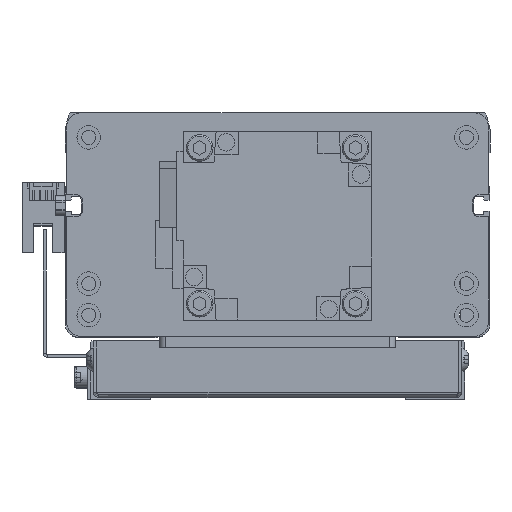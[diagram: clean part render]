
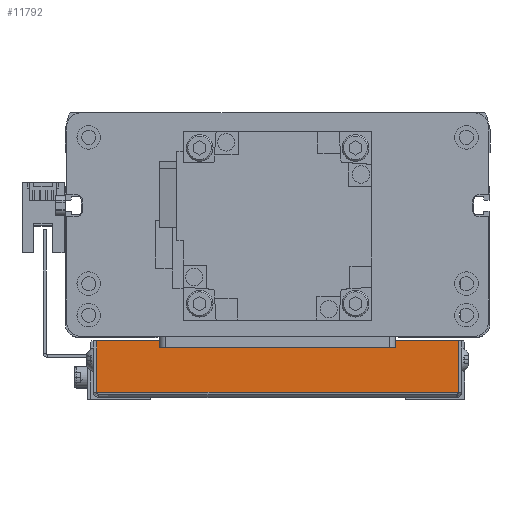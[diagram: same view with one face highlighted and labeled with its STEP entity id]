
A CAD part, front view. The second image highlights one B-rep face of the part: STEP entity #11792.
In plain terms, the highlighted planar face has unit normal (0, -1, 0) as drawn and (0, 0, 1) by its records, which use the part's own axes.
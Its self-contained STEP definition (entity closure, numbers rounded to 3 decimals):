
#137 = PLANE ( 'NONE',  #12928 ) ;
#240 = VERTEX_POINT ( 'NONE', #591 ) ;
#591 = CARTESIAN_POINT ( 'NONE',  ( 61.004, 40.36, 818.624 ) ) ;
#1251 = CARTESIAN_POINT ( 'NONE',  ( 61.104, 40.36, 818.624 ) ) ;
#2479 = CARTESIAN_POINT ( 'NONE',  ( 61.004, 56.624, 818.624 ) ) ;
#7827 = EDGE_LOOP ( 'NONE', ( #11971, #16936, #16489, #28859 ) ) ;
#8687 = VERTEX_POINT ( 'NONE', #16025 ) ;
#9174 = VECTOR ( 'NONE', #15877, 1000. ) ;
#11792 = ADVANCED_FACE ( 'NONE', ( #23067 ), #137, .F. ) ;
#11971 = ORIENTED_EDGE ( 'NONE', *, *, #30803, .F. ) ;
#12928 = AXIS2_PLACEMENT_3D ( 'NONE', #17467, #27470, #29942 ) ;
#13399 = VECTOR ( 'NONE', #15941, 1000. ) ;
#13902 = LINE ( 'NONE', #1251, #9174 ) ;
#14019 = CARTESIAN_POINT ( 'NONE',  ( 61.004, 56.624, 818.624 ) ) ;
#15727 = CARTESIAN_POINT ( 'NONE',  ( 139.113, 56.624, 818.624 ) ) ;
#15877 = DIRECTION ( 'NONE',  ( -1., 0., 0. ) ) ;
#15941 = DIRECTION ( 'NONE',  ( 1., 0., 0. ) ) ;
#16025 = CARTESIAN_POINT ( 'NONE',  ( -53.796, 56.624, 818.624 ) ) ;
#16489 = ORIENTED_EDGE ( 'NONE', *, *, #31698, .F. ) ;
#16571 = VECTOR ( 'NONE', #28449, 1000. ) ;
#16715 = VERTEX_POINT ( 'NONE', #31587 ) ;
#16936 = ORIENTED_EDGE ( 'NONE', *, *, #18936, .T. ) ;
#17467 = CARTESIAN_POINT ( 'NONE',  ( 139.113, 58.36, 818.624 ) ) ;
#17777 = CARTESIAN_POINT ( 'NONE',  ( -53.796, 56.624, 818.624 ) ) ;
#18128 = LINE ( 'NONE', #14019, #16571 ) ;
#18936 = EDGE_CURVE ( 'NONE', #8687, #16715, #31987, .T. ) ;
#23067 = FACE_OUTER_BOUND ( 'NONE', #7827, .T. ) ;
#25512 = VECTOR ( 'NONE', #30955, 1000. ) ;
#26137 = LINE ( 'NONE', #15727, #13399 ) ;
#26839 = EDGE_CURVE ( 'NONE', #31594, #240, #18128, .T. ) ;
#27470 = DIRECTION ( 'NONE',  ( 0., 0., -1. ) ) ;
#28449 = DIRECTION ( 'NONE',  ( 0., -1., 0. ) ) ;
#28859 = ORIENTED_EDGE ( 'NONE', *, *, #26839, .F. ) ;
#29942 = DIRECTION ( 'NONE',  ( 0., 1., 0. ) ) ;
#30803 = EDGE_CURVE ( 'NONE', #8687, #31594, #26137, .T. ) ;
#30955 = DIRECTION ( 'NONE',  ( 0., -1., 0. ) ) ;
#31587 = CARTESIAN_POINT ( 'NONE',  ( -53.796, 40.36, 818.624 ) ) ;
#31594 = VERTEX_POINT ( 'NONE', #2479 ) ;
#31698 = EDGE_CURVE ( 'NONE', #240, #16715, #13902, .T. ) ;
#31987 = LINE ( 'NONE', #17777, #25512 ) ;
